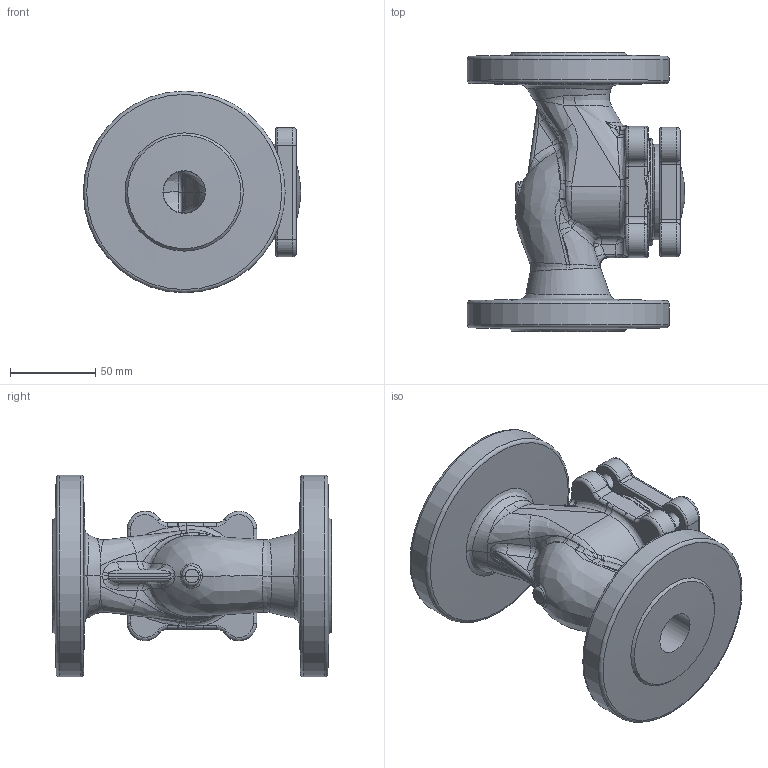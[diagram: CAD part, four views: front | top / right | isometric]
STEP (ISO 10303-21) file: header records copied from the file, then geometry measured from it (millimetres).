
FILE_DESCRIPTION(/* description */ ('STEP AP203'),/* implementation_level */ '2;1');
FILE_NAME(/* name */ '',/* time_stamp */ '2025-02-21T12:10:05+07:00',/* author */ ('Eva'),/* organization */ (''),/* preprocessor_version */ 'ST-DEVELOPER v20',/* originating_system */ 'Autodesk Inventor 2025',/* authorisation */ '');
FILE_SCHEMA (('AUTOMOTIVE_DESIGN { 1 0 10303 214 3 1 1 }'));
Length unit declared in the file: metre
Products named in the file (3): 止回阀25; 止回阀25阀盖; 25
Assembly tree (2 placements, depth 2):
  止回阀25
    止回阀25阀盖
    25
Bounding box: 127.66 x 164.37 x 118.5 mm (x, y, z)
Volume: 645707.8 mm3; surface area: 116743.2 mm2
Topology: 2 solids, 2 shells, 367 faces, 901 edges, 519 vertices
Faces by surface type: bspline 190, cylinder 77, plane 46, torus 28, cone 20, sphere 6
Full cylindrical faces by diameter (mm): 10 x4, 11 x1, 22 x1, 24 x1, 25 x2, 38 x1, 38.2 x1, 56 x1, 62.4 x1, 118.5 x2
Entity records: 36477 total; most frequent: CARTESIAN_POINT 29074, ORIENTED_EDGE 1760, DIRECTION 1238, EDGE_CURVE 880, AXIS2_PLACEMENT_3D 539, VERTEX_POINT 519, EDGE_LOOP 381, FACE_OUTER_BOUND 367
